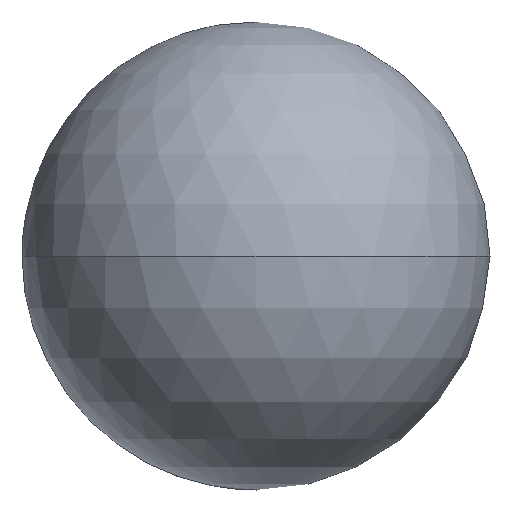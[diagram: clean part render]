
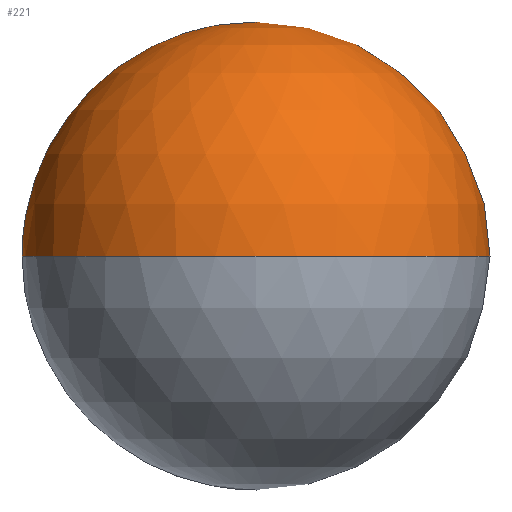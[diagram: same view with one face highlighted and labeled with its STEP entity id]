
A CAD part, front view. The second image highlights one B-rep face of the part: STEP entity #221.
In plain terms, the highlighted spherical face has radius 175 mm.
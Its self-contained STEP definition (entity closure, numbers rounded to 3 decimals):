
#91 = SPHERICAL_SURFACE ( 'NONE', #101, 175. ) ;
#101 = AXIS2_PLACEMENT_3D ( 'NONE', #144, #251, #197 ) ;
#103 = DIRECTION ( 'NONE',  ( 0., 0., -1. ) ) ;
#144 = CARTESIAN_POINT ( 'NONE',  ( 0., 0., 0. ) ) ;
#189 = EDGE_CURVE ( 'NONE', #446, #296, #505, .T. ) ;
#194 = DIRECTION ( 'NONE',  ( 1., 0., 0. ) ) ;
#197 = DIRECTION ( 'NONE',  ( -1., 0., 0. ) ) ;
#198 = CARTESIAN_POINT ( 'NONE',  ( 0., 0., 0. ) ) ;
#221 = ADVANCED_FACE ( 'NONE', ( #609 ), #91, .T. ) ;
#251 = DIRECTION ( 'NONE',  ( 0., 0., -1. ) ) ;
#272 = CARTESIAN_POINT ( 'NONE',  ( 0., 175., 0. ) ) ;
#288 = EDGE_LOOP ( 'NONE', ( #455, #301 ) ) ;
#296 = VERTEX_POINT ( 'NONE', #345 ) ;
#301 = ORIENTED_EDGE ( 'NONE', *, *, #189, .T. ) ;
#306 = AXIS2_PLACEMENT_3D ( 'NONE', #198, #617, #194 ) ;
#345 = CARTESIAN_POINT ( 'NONE',  ( 0., -175., 0. ) ) ;
#347 = EDGE_CURVE ( 'NONE', #446, #296, #429, .T. ) ;
#429 = CIRCLE ( 'NONE', #579, 175. ) ;
#446 = VERTEX_POINT ( 'NONE', #272 ) ;
#455 = ORIENTED_EDGE ( 'NONE', *, *, #347, .F. ) ;
#465 = DIRECTION ( 'NONE',  ( -1., 0., 0. ) ) ;
#505 = CIRCLE ( 'NONE', #306, 175. ) ;
#522 = CARTESIAN_POINT ( 'NONE',  ( 0., 0., 0. ) ) ;
#579 = AXIS2_PLACEMENT_3D ( 'NONE', #522, #103, #465 ) ;
#609 = FACE_OUTER_BOUND ( 'NONE', #288, .T. ) ;
#617 = DIRECTION ( 'NONE',  ( 0., 0., 1. ) ) ;
